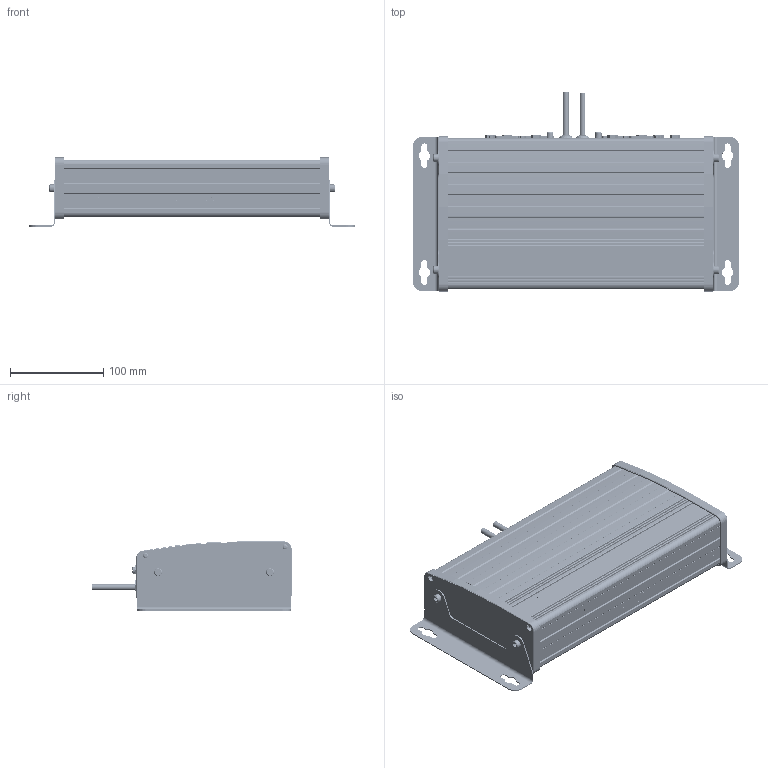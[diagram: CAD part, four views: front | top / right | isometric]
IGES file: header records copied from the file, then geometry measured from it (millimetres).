
Global section: file name: /home/users/pf123904/RLU_H.igs; native system: Unigraphics Version X V1.0; preprocessor: Unigraphics NX IGES V1.0; date: 20050815.161529; units: millimetre
Bounding box: 350 x 213.34 x 74.15 mm (x, y, z)
Surface area: 208480.1 mm2 (no closed solid volume)
Topology: 0 solids, 0 shells, 10038 faces, 68580 edges, 68392 vertices
Faces by surface type: extrusion 9149, revolution 889
